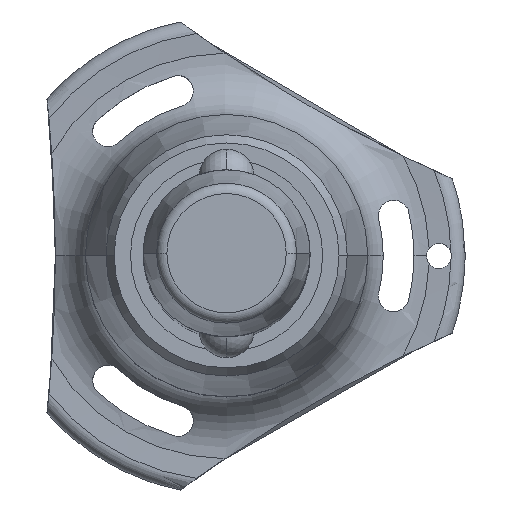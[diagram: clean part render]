
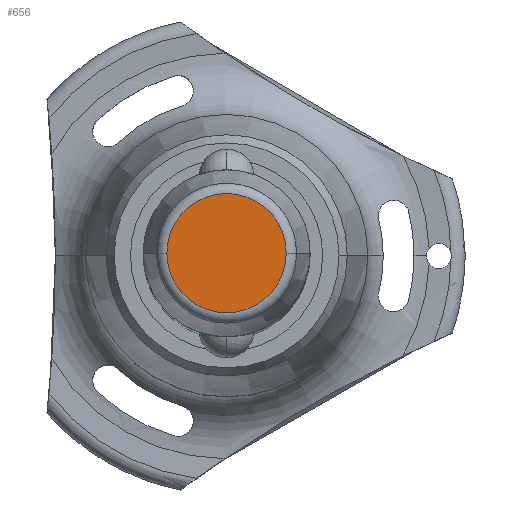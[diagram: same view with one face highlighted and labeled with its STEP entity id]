
A CAD part, top view. The second image highlights one B-rep face of the part: STEP entity #656.
In plain terms, the highlighted planar face has unit normal (0, 0, 1).
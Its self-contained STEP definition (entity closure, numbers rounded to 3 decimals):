
#162 = CIRCLE ( 'NONE', #775, 7.144 ) ;
#189 = DIRECTION ( 'NONE',  ( 0., 0., 1. ) ) ;
#559 = DIRECTION ( 'NONE',  ( 1., 0., 0. ) ) ;
#656 = ADVANCED_FACE ( 'NONE', ( #2162 ), #773, .T. ) ;
#661 = DIRECTION ( 'NONE',  ( 1., 0., 0. ) ) ;
#773 = PLANE ( 'NONE',  #2878 ) ;
#775 = AXIS2_PLACEMENT_3D ( 'NONE', #2714, #1118, #661 ) ;
#808 = EDGE_LOOP ( 'NONE', ( #2885, #1122 ) ) ;
#822 = EDGE_CURVE ( 'NONE', #1794, #2363, #162, .T. ) ;
#1118 = DIRECTION ( 'NONE',  ( 0., 0., 1. ) ) ;
#1122 = ORIENTED_EDGE ( 'NONE', *, *, #2791, .T. ) ;
#1376 = DIRECTION ( 'NONE',  ( 1., 0., 0. ) ) ;
#1444 = CARTESIAN_POINT ( 'NONE',  ( -7.144, 0., 20.5 ) ) ;
#1688 = CIRCLE ( 'NONE', #2596, 7.144 ) ;
#1794 = VERTEX_POINT ( 'NONE', #2571 ) ;
#1796 = CARTESIAN_POINT ( 'NONE',  ( 0., 0., 20.5 ) ) ;
#2129 = CARTESIAN_POINT ( 'NONE',  ( 0., 0., 20.5 ) ) ;
#2162 = FACE_OUTER_BOUND ( 'NONE', #808, .T. ) ;
#2363 = VERTEX_POINT ( 'NONE', #1444 ) ;
#2571 = CARTESIAN_POINT ( 'NONE',  ( 7.144, 0., 20.5 ) ) ;
#2596 = AXIS2_PLACEMENT_3D ( 'NONE', #1796, #189, #1376 ) ;
#2714 = CARTESIAN_POINT ( 'NONE',  ( 0., 0., 20.5 ) ) ;
#2791 = EDGE_CURVE ( 'NONE', #2363, #1794, #1688, .T. ) ;
#2834 = DIRECTION ( 'NONE',  ( 0., 0., 1. ) ) ;
#2878 = AXIS2_PLACEMENT_3D ( 'NONE', #2129, #2834, #559 ) ;
#2885 = ORIENTED_EDGE ( 'NONE', *, *, #822, .T. ) ;
